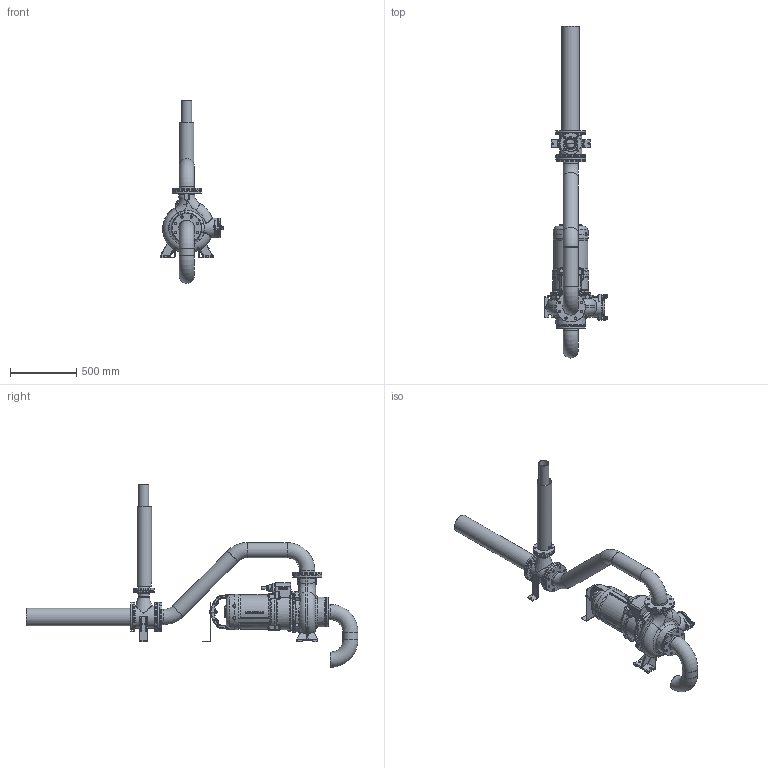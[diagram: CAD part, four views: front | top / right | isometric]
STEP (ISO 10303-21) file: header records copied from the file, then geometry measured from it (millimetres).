
FILE_DESCRIPTION(/* description */ (''),/* implementation_level */ '2;1');
FILE_NAME(/* name */ 'H:\3D\Projekte\@Wirbeljet\700 Amajet_2021_step\Amajet_L_Gully_suction_KA_16.stp',/* time_stamp */ '2021-04-12T22:45:07+02:00',/* author */ ('emmrpat'),/* organization */ (''),/* preprocessor_version */ 'ST-DEVELOPER v18',/* originating_system */ 'Autodesk Inventor 2020',/* authorisation */ '');
FILE_SCHEMA (('AUTOMOTIVE_DESIGN { 1 0 10303 214 3 1 1 }'));
Length unit declared in the file: millimetre
Products named in the file (53): Amajet_L_Gully_suction_KA_16; Aufstellung_01; KRT_100-250_komplett; Sewatec_100-250_0W383895_01; Putzlochdeckel_Z065469; ISO 4032 - M16; DIN 188 - M16 x 70; UG155595214_01; ug1004874zmn001_01; ug1004383zmn001_01; ug1510147zmk001_01_BODY; ug1510095zmk001_01; ug1510137zmk001_01; ug1510136zmk001_01; ug1510110zmk001_01; UG154735011ZMM001_02; UG153885001ZMM001_01; ug1012584zmn001_01; ug1002091zmn001_01; UG154911611ZMM001_04; ISO 4032 - M16_1; ISO 7089 -  16; DIN 835 - M16 x 50; Anschlußrohr_Teil_71-14-01; Bogen DN100 BA3_45°; Rohr_DN100_585mm; Rohr_DN100_300mm; Stützwinkel_neu_01; Stützwinkel_neu; Klemmblech_neu; ISO 4032 - M10; ISO 7089 - 10 - 140 HV; ISO 4017 - M10 x 55; Dichtung1_DN100_5mm; Flansch_0W308059; 0W308365_Vari_01_Duese; Strahlrohr_133mm_800mm; 0W308365_Vari_01_Duese_1; Dichtung_DN100_5mm; Dichtung_DN65_4mm_110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
Assembly tree (100 placements, depth 5):
  Amajet_L_Gully_suction_KA_16
    Aufstellung_01
      KRT_100-250_komplett
        Sewatec_100-250_0W383895_01
        Putzlochdeckel_Z065469
        ISO 4032 - M16  x2
        ISO 7089 -  16  x2
        DIN 188 - M16 x 70  x2
      UG155595214_01
        ug1004874zmn001_01  x4
        ug1004383zmn001_01  x2
        ug1510147zmk001_01_BODY
          ug1510095zmk001_01
          ug1510137zmk001_01  x12
          ug1510136zmk001_01
          ug1510110zmk001_01
        UG154735011ZMM001_02
        UG153885001ZMM001_01
        ug1012584zmn001_01
        ug1002091zmn001_01
        UG154911611ZMM001_04
        ISO 4032 - M16_1  x4
        ISO 7089 -  16  x4
        DIN 835 - M16 x 50  x4
    Dichtung1_DN100_5mm  x3
    Anschlußrohr_Teil_71-14-01
      Bogen DN100 BA3
      Bogen DN100 BA3_45°  x2
      Losflansch_DN100_PN10_12mm  x2
      Vorschweißbördel_30mm_DN100_PN10  x2
      Rohr_DN100_585mm
      Rohr_DN100_300mm
    Stützwinkel_neu_01
      Stützwinkel_neu
      Klemmblech_neu
      ISO 4032 - M10  x2
      ISO 7089 - 10 - 140 HV  x2
      ISO 4017 - M10 x 55  x2
    Flansch_0W308059
    Dichtung_DN100_5mm  x2
    0W308365_Vari_01_Duese
    Strahlrohr_133mm_800mm
    0W308365_Vari_01_Duese_1
    Dichtung_DN65_4mm_110
    0W308366_800mm_Belueftung
      0W308366_800mm_Rohr
      Vorschweißflansch_DN65_PN6
    Kabelschutzrohr_01
    0W382247_Mischkammer
    Verstelllasche  x2
    ISO 7089 -  8  x4
    ISO 4762  - M8 x 16  x4
    ‎SLGS233-20-024
      Vorschweißbördel_30mm_DN100_PN10
      Bogen DN100 BA3  x2
      Rohr_DN100_56mm
      Losflansch_DN100_PN10_12mm
Bounding box: 480 x 2500.57 x 1376.15 mm (x, y, z)
Volume: 26729385.5 mm3; surface area: 6687070.9 mm2
Topology: 95 solids, 95 shells, 3332 faces, 8027 edges, 4909 vertices
Faces by surface type: plane 1017, cylinder 904, bspline 715, torus 382, cone 181, sphere 133
Full cylindrical faces by diameter (mm): 3 x12, 3.05 x2, 3.3 x1, 4 x12, 5 x12, 6 x12, 6.8 x1, 7 x24, 8 x8, 8.376 x2, 8.4 x4, 8.5 x6, 10 x8, 10.5 x2, 11 x6, 11.5 x8, 12 x8, 13 x8, 13.835 x6, 14 x4, 14.63 x2, 15.25 x1, 16 x24, 16.662 x1, 17 x6, 17.1 x1, 17.5 x4, 18 x61, 20 x2, 22 x1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
Entity records: 128916 total; most frequent: CARTESIAN_POINT 59494, ORIENTED_EDGE 14026, DIRECTION 13681, EDGE_CURVE 7013, AXIS2_PLACEMENT_3D 5724, VERTEX_POINT 4321, EDGE_LOOP 3282, CIRCLE 3186
